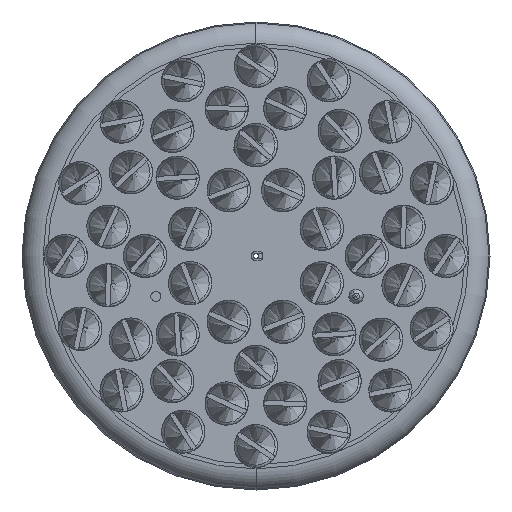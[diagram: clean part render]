
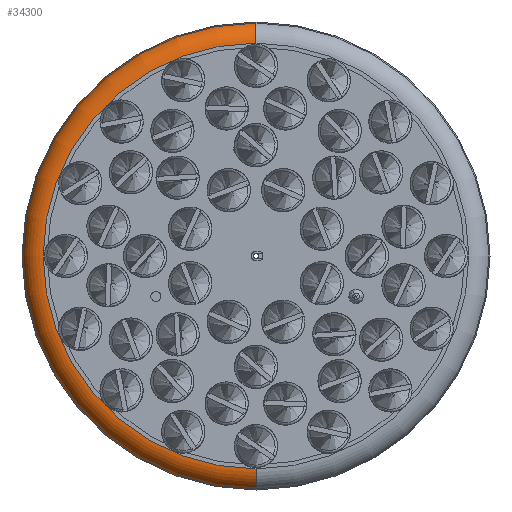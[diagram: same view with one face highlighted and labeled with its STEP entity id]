
A CAD part, front view. The second image highlights one B-rep face of the part: STEP entity #34300.
In plain terms, the highlighted toroidal (fillet/blend) face has major radius 295.606 mm and minor radius 30 mm.
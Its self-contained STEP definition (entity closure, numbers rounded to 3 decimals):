
#6081 = DIRECTION ( 'NONE',  ( 0., 0., -1. ) ) ;
#7788 = CIRCLE ( 'NONE', #51059, 325. ) ;
#7968 = EDGE_LOOP ( 'NONE', ( #78695, #29421, #67035, #68461 ) ) ;
#8363 = CARTESIAN_POINT ( 'NONE',  ( 0., -865.92, 0. ) ) ;
#11374 = DIRECTION ( 'NONE',  ( 0., 1., 0. ) ) ;
#14526 = DIRECTION ( 'NONE',  ( 0., 0., 1. ) ) ;
#14871 = FACE_OUTER_BOUND ( 'NONE', #7968, .T. ) ;
#17541 = CARTESIAN_POINT ( 'NONE',  ( 0., -835.92, 0. ) ) ;
#17856 = CIRCLE ( 'NONE', #70049, 295.606 ) ;
#21795 = CARTESIAN_POINT ( 'NONE',  ( 0., -865.92, 295.606 ) ) ;
#22934 = CARTESIAN_POINT ( 'NONE',  ( 0., -835.92, -295.606 ) ) ;
#24087 = VERTEX_POINT ( 'NONE', #38046 ) ;
#25901 = CARTESIAN_POINT ( 'NONE',  ( 0., -841.92, 0. ) ) ;
#27532 = EDGE_CURVE ( 'NONE', #24087, #29593, #45799, .T. ) ;
#29106 = DIRECTION ( 'NONE',  ( 0., 0., -1. ) ) ;
#29368 = VERTEX_POINT ( 'NONE', #64621 ) ;
#29421 = ORIENTED_EDGE ( 'NONE', *, *, #78923, .T. ) ;
#29593 = VERTEX_POINT ( 'NONE', #43504 ) ;
#29771 = EDGE_CURVE ( 'NONE', #66988, #24087, #17856, .T. ) ;
#32099 = DIRECTION ( 'NONE',  ( 0., 0., 1. ) ) ;
#33445 = CARTESIAN_POINT ( 'NONE',  ( 0., -835.92, 295.606 ) ) ;
#34300 = ADVANCED_FACE ( 'NONE', ( #14871 ), #61943, .T. ) ;
#36350 = CIRCLE ( 'NONE', #69226, 30. ) ;
#38046 = CARTESIAN_POINT ( 'NONE',  ( 0., -865.92, -295.606 ) ) ;
#39623 = DIRECTION ( 'NONE',  ( 0., 0., 1. ) ) ;
#43504 = CARTESIAN_POINT ( 'NONE',  ( 0., -841.92, -325. ) ) ;
#45799 = CIRCLE ( 'NONE', #58120, 30. ) ;
#51059 = AXIS2_PLACEMENT_3D ( 'NONE', #25901, #68954, #32099 ) ;
#51299 = DIRECTION ( 'NONE',  ( 0., -1., 0. ) ) ;
#58120 = AXIS2_PLACEMENT_3D ( 'NONE', #22934, #65972, #29106 ) ;
#61943 = TOROIDAL_SURFACE ( 'NONE', #77337, 295.606, 30. ) ;
#64621 = CARTESIAN_POINT ( 'NONE',  ( 0., -841.92, 325. ) ) ;
#65972 = DIRECTION ( 'NONE',  ( 1., 0., 0. ) ) ;
#66988 = VERTEX_POINT ( 'NONE', #21795 ) ;
#67035 = ORIENTED_EDGE ( 'NONE', *, *, #73859, .T. ) ;
#68461 = ORIENTED_EDGE ( 'NONE', *, *, #27532, .F. ) ;
#68954 = DIRECTION ( 'NONE',  ( 0., -1., 0. ) ) ;
#69226 = AXIS2_PLACEMENT_3D ( 'NONE', #33445, #76507, #39623 ) ;
#70049 = AXIS2_PLACEMENT_3D ( 'NONE', #8363, #51299, #14526 ) ;
#73859 = EDGE_CURVE ( 'NONE', #29368, #29593, #7788, .T. ) ;
#76507 = DIRECTION ( 'NONE',  ( -1., 0., 0. ) ) ;
#77337 = AXIS2_PLACEMENT_3D ( 'NONE', #17541, #11374, #6081 ) ;
#78695 = ORIENTED_EDGE ( 'NONE', *, *, #29771, .F. ) ;
#78923 = EDGE_CURVE ( 'NONE', #66988, #29368, #36350, .T. ) ;
